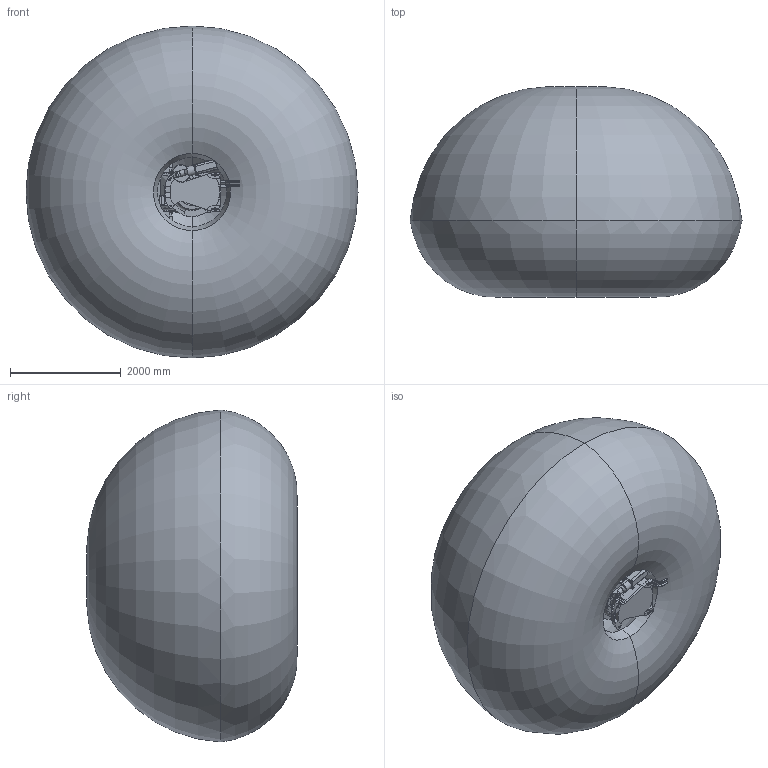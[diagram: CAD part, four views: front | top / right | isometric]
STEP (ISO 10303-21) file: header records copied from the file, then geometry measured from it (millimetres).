
FILE_DESCRIPTION (( 'STEP AP214' ), '1' );
FILE_NAME ('SMART NJ 420-3.0 (3D-STEP).STEP', '2008-10-06T10:24:25', ( 'Comau' ), ( 'Comau S.p.A.' ), 'SwSTEP 2.0', 'SolidWorks 2005235', '' );
FILE_SCHEMA (( 'AUTOMOTIVE_DESIGN' ));
Length unit declared in the file: millimetre
Products named in the file (19): SMART NJ 420-3.0_P10; SMART NJ 420-3.0_P11; SMART NJ 420-3.0_P12; SMART NJ 420-3.0_CR82309740_LAFERT-SM; SMART NJ 420-3.0_P09; SMART NJ 420-3.0_P14; SMART NJ 420-3.0_CR82309760_LAFERT-SM; Operation area SMART NJ 420-3.0; SMART NJ 420-3.0_P07; SMART NJ 420-3.0_CR82309763_LAFERT-SM; SMART NJ 420-3.0_P03; SMART NJ 420-3.0_P04; SMART NJ 420-3.0 (3D-STEP); SMART NJ 420-3.0_P08; SMART NJ 420-3.0_P01; SMART NJ 420-3.0_P02; SMART NJ 420-3.0_P13; SMART NJ 420-3.0_P05; SMART NJ 420-3.0_P06
Assembly tree (23 placements, depth 2):
  SMART NJ 420-3.0 (3D-STEP)
    SMART NJ 420-3.0_P08  x2
    SMART NJ 420-3.0_P03
    SMART NJ 420-3.0_CR82309760_LAFERT-SM
    SMART NJ 420-3.0_CR82309763_LAFERT-SM  x2
    SMART NJ 420-3.0_P01
    SMART NJ 420-3.0_P05
    SMART NJ 420-3.0_P04
    SMART NJ 420-3.0_P07
    SMART NJ 420-3.0_P09  x2
    SMART NJ 420-3.0_CR82309740_LAFERT-SM  x3
    SMART NJ 420-3.0_P11
    SMART NJ 420-3.0_P02
    Operation area SMART NJ 420-3.0
    SMART NJ 420-3.0_P10
    SMART NJ 420-3.0_P12
    SMART NJ 420-3.0_P06
    SMART NJ 420-3.0_P13
    SMART NJ 420-3.0_P14
Bounding box: 5994.95 x 3797.26 x 5994.95 mm (x, y, z)
Volume: 67946181899.8 mm3; surface area: 135320200.4 mm2
Topology: 24 solids, 37 shells, 5112 faces, 13342 edges, 8403 vertices
Faces by surface type: plane 2174, cylinder 2092, bspline 405, torus 185, cone 175, sphere 81
Entity records: 171294 total; most frequent: CARTESIAN_POINT 56086, ORIENTED_EDGE 23700, DIRECTION 22048, EDGE_CURVE 11850, AXIS2_PLACEMENT_3D 7981, VERTEX_POINT 7609, LINE 6086, VECTOR 6086
